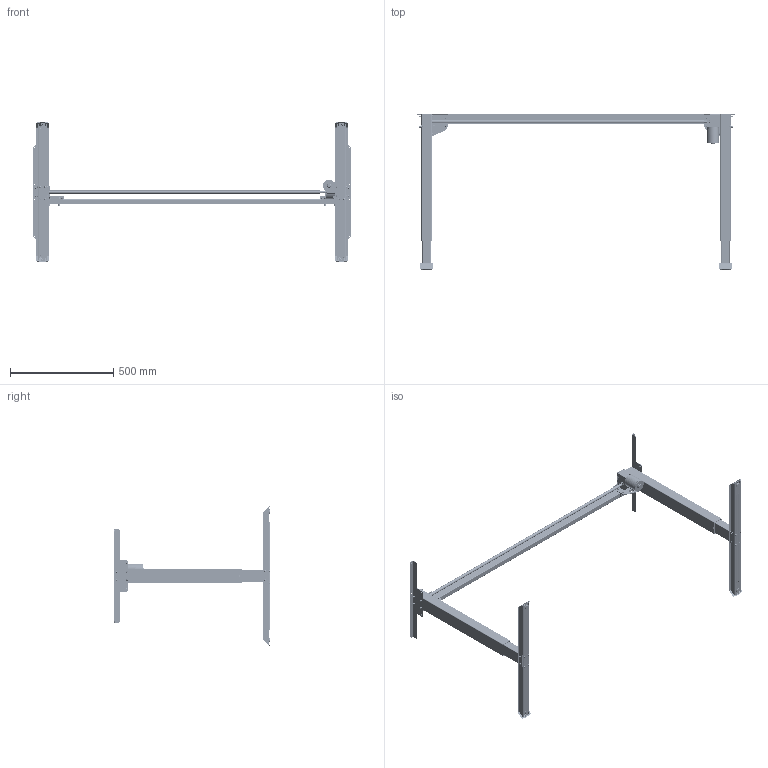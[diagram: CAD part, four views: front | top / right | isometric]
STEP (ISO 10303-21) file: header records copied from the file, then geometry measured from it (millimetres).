
FILE_DESCRIPTION (( 'STEP AP214' ), '1' );
FILE_NAME ('Tech-draw_501-20_XX152.STEP', '2024-01-12T09:06:29', ( '' ), ( '' ), 'SwSTEP 2.0', 'SolidWorks 2023', '' );
FILE_SCHEMA (( 'AUTOMOTIVE_DESIGN' ));
Length unit declared in the file: millimetre
Products named in the file (66): 359910_501-33 NY; 301890_Bend 7; 341800; 159300_Shell; 360340_kopi_gammel; 340760; 357710; 347920_152; 357630; 360380; 322810_zinc; 360490; 353060; 341220; 358280; 353020; 332570; 353110; 360360_70mm; 357620; 357720; 357580; Tech-draw_501-20_XX152; 156470_501-33 NEW; 144260_152; 156490_Shell; 360350_70mm; 340560; 325000; 360300; 353050; 360310; 353100; 360330; 305990; 159290_Shell; 349470; 160340_501-20 XS152; 156500_501-33 NEW; 358020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
Assembly tree (159 placements, depth 7):
  Tech-draw_501-20_XX152
    160340_501-20 XS152
      347910_152
      144260_152
        347920_152
        340560
        341220
      340760  x3
      332570  x4
      160370_silver
        360300
        360330
        159290_Shell
          156440_Shell
            156460_Shell
              356390
              360340_kopi_gammel
            357580  x2
            357760_Højere
            358020
            357710
            352350
          357630  x2
          357640  x2
          341800
          156470_501-33 NEW
            357620
            360350_70mm
          352350
        159280_501-20
          359910_501-33 NY
          360380
          360490  x2
        360310
        358000_Simplify_1  x3
        340760  x2
        332570  x2
        349470  x2
        155730_silver
          357990_black
          356710_silver
          322810_zinc  x3
          353020
          353030
          151900
            353100
            322650_501-33  x2
            353050
            353060
            301890_Bend 7  x2
          353110  x2
          353120
          357720
        357610  x11
        358280  x4
        314690  x7
        325000  x8
      160360_silver
        159300_Shell
          156500_501-33 NEW
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Bounding box: 1535 x 756.2 x 674.9 mm (x, y, z)
Volume: 2179338.2 mm3; surface area: 2523003.6 mm2
Topology: 153 solids, 153 shells, 7918 faces, 20276 edges, 12743 vertices
Faces by surface type: plane 4127, cylinder 2383, bspline 589, cone 406, torus 212, sphere 201
Full cylindrical faces by diameter (mm): 1 x3, 1.2 x16, 1.6 x1, 1.7 x2, 1.9 x6, 2.2 x2, 2.5 x5, 3 x20, 3.3 x6, 4 x48, 4.2 x12, 4.5 x5, 4.98 x2, 5 x224, 5.5 x7, 6 x240, 6.4 x1, 7 x20, 7.4 x4, 7.5 x13, 8 x20, 8.2 x4, 8.5 x22, 9 x4, 10 x25, 11.9 x2, 12 x1, 13 x2, 14 x2, 16 x2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
Entity records: 168928 total; most frequent: CARTESIAN_POINT 59714, ORIENTED_EDGE 22410, DIRECTION 21572, EDGE_CURVE 11205, VERTEX_POINT 7339, AXIS2_PLACEMENT_3D 7321, LINE 6930, VECTOR 6930
